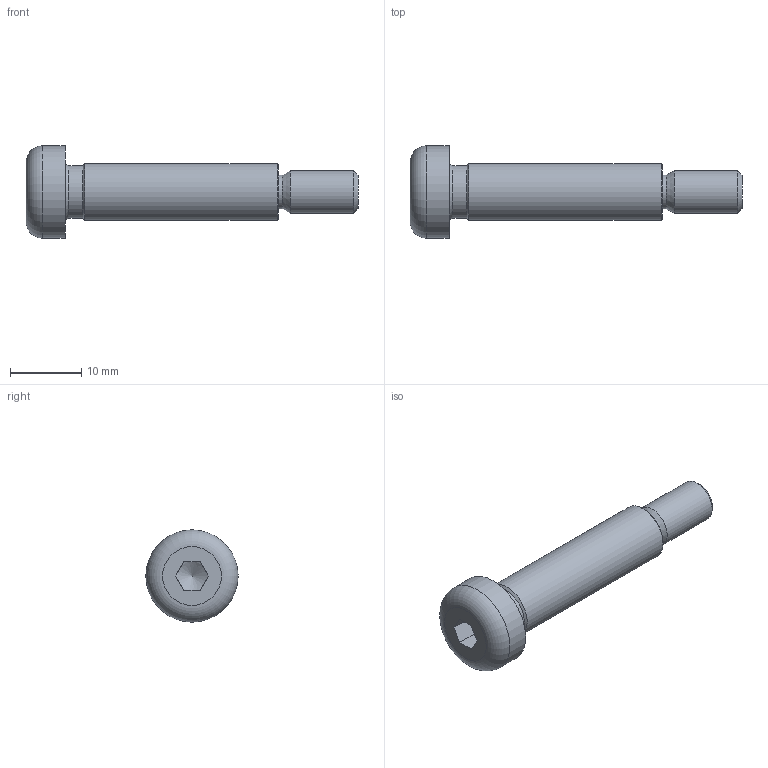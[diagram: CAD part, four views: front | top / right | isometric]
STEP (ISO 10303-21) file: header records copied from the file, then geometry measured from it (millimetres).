
FILE_DESCRIPTION(/* description */ ('6각 소켓 머리 숄더 나사'),/* implementation_level */ '2;1');
FILE_NAME(/* name */ '',/* time_stamp */ '2024-04-08T11:17:40+09:00',/* author */ ('jhkim'),/* organization */ (''),/* preprocessor_version */ 'ST-DEVELOPER v20',/* originating_system */ 'Autodesk Inventor 2025',/* authorisation */ '');
FILE_SCHEMA (('AUTOMOTIVE_DESIGN { 1 0 10303 214 3 1 1 }','AP242_MANAGED_MODEL_BASED_3D_ENGINEERING_MIM_LF { 1 0 10303 442 3 1 4 }'));
Length unit declared in the file: millimetre
Products named in the file (1): 스트리퍼 볼트 8 x 30
Bounding box: 46.75 x 13 x 13 mm (x, y, z)
Volume: 2425.4 mm3; surface area: 1460.9 mm2
Topology: 1 solids, 1 shells, 22 faces, 49 edges, 31 vertices
Faces by surface type: plane 10, cylinder 5, cone 5, torus 2
Full cylindrical faces by diameter (mm): 4.773 x1, 6 x1, 7.42 x1, 8 x1, 13 x1
Entity records: 645 total; most frequent: CARTESIAN_POINT 114, DIRECTION 108, ORIENTED_EDGE 96, EDGE_CURVE 48, AXIS2_PLACEMENT_3D 43, VERTEX_POINT 31, EDGE_LOOP 25, LINE 22
